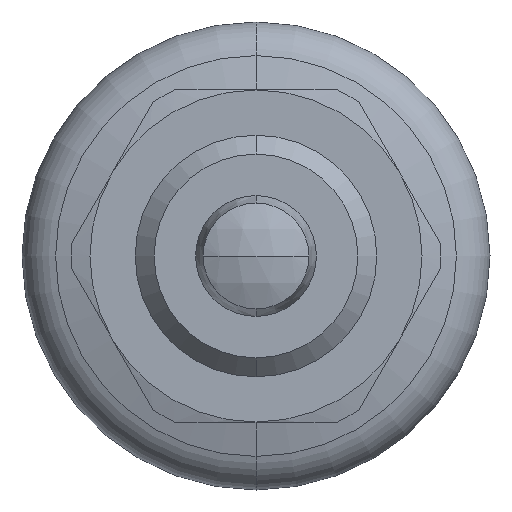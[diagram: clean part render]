
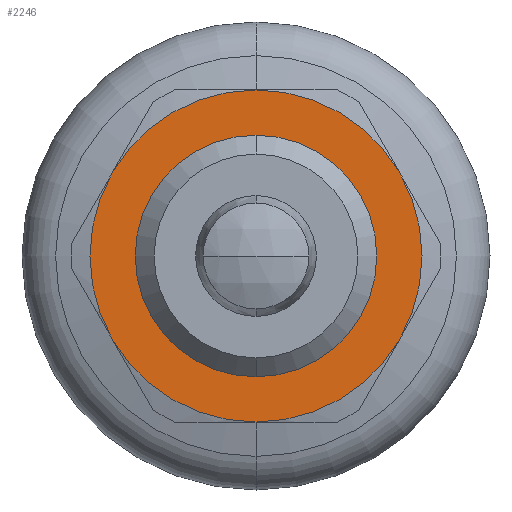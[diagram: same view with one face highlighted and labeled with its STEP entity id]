
A CAD part, front view. The second image highlights one B-rep face of the part: STEP entity #2246.
In plain terms, the highlighted planar face has unit normal (0, -1, 0) as drawn and (0, 0, -1) by its records, which use the part's own axes.
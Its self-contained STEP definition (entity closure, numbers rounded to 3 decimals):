
#2 = EDGE_CURVE ( 'NONE', #137, #3606, #768, .T. ) ;
#21 = ORIENTED_EDGE ( 'NONE', *, *, #2718, .T. ) ;
#45 = CARTESIAN_POINT ( 'NONE',  ( 0., 0., -2.25 ) ) ;
#61 = CARTESIAN_POINT ( 'NONE',  ( 0., 0., -2.25 ) ) ;
#94 = DIRECTION ( 'NONE',  ( -1., 0., 0. ) ) ;
#100 = CIRCLE ( 'NONE', #2190, 7.25 ) ;
#108 = EDGE_CURVE ( 'NONE', #1952, #1832, #1497, .T. ) ;
#123 = ORIENTED_EDGE ( 'NONE', *, *, #3383, .T. ) ;
#137 = VERTEX_POINT ( 'NONE', #2020 ) ;
#243 = AXIS2_PLACEMENT_3D ( 'NONE', #1421, #3122, #1682 ) ;
#264 = AXIS2_PLACEMENT_3D ( 'NONE', #1625, #2770, #2694 ) ;
#364 = VERTEX_POINT ( 'NONE', #3164 ) ;
#387 = CARTESIAN_POINT ( 'NONE',  ( -5.5, 9.526, -2.25 ) ) ;
#393 = DIRECTION ( 'NONE',  ( -1., 0., 0. ) ) ;
#431 = ORIENTED_EDGE ( 'NONE', *, *, #2732, .T. ) ;
#461 = PLANE ( 'NONE',  #1907 ) ;
#613 = CARTESIAN_POINT ( 'NONE',  ( 5.5, 9.526, -2.25 ) ) ;
#728 = FACE_BOUND ( 'NONE', #1463, .T. ) ;
#768 = CIRCLE ( 'NONE', #1610, 11. ) ;
#885 = ORIENTED_EDGE ( 'NONE', *, *, #108, .T. ) ;
#1024 = CARTESIAN_POINT ( 'NONE',  ( 0., -12.702, -2.25 ) ) ;
#1070 = DIRECTION ( 'NONE',  ( 0., 0., -1. ) ) ;
#1122 = EDGE_CURVE ( 'NONE', #2519, #3150, #3656, .T. ) ;
#1149 = ORIENTED_EDGE ( 'NONE', *, *, #2346, .T. ) ;
#1179 = AXIS2_PLACEMENT_3D ( 'NONE', #2544, #1070, #3090 ) ;
#1201 = DIRECTION ( 'NONE',  ( 0., 0., -1. ) ) ;
#1252 = CARTESIAN_POINT ( 'NONE',  ( 11., 0., -2.25 ) ) ;
#1269 = CARTESIAN_POINT ( 'NONE',  ( 0., 0., -2.25 ) ) ;
#1298 = ORIENTED_EDGE ( 'NONE', *, *, #3567, .T. ) ;
#1349 = CARTESIAN_POINT ( 'NONE',  ( 0., 0., -2.25 ) ) ;
#1421 = CARTESIAN_POINT ( 'NONE',  ( 0., 0., -2.25 ) ) ;
#1458 = VERTEX_POINT ( 'NONE', #1252 ) ;
#1463 = EDGE_LOOP ( 'NONE', ( #885, #431 ) ) ;
#1497 = CIRCLE ( 'NONE', #1734, 7.25 ) ;
#1581 = DIRECTION ( 'NONE',  ( 1., 0., 0. ) ) ;
#1610 = AXIS2_PLACEMENT_3D ( 'NONE', #1349, #2515, #2725 ) ;
#1625 = CARTESIAN_POINT ( 'NONE',  ( 0., 0., -2.25 ) ) ;
#1644 = EDGE_LOOP ( 'NONE', ( #1149, #1298, #3044, #21, #123, #1758 ) ) ;
#1652 = FACE_OUTER_BOUND ( 'NONE', #1644, .T. ) ;
#1682 = DIRECTION ( 'NONE',  ( -1., 0., 0. ) ) ;
#1734 = AXIS2_PLACEMENT_3D ( 'NONE', #45, #2312, #3171 ) ;
#1758 = ORIENTED_EDGE ( 'NONE', *, *, #1122, .T. ) ;
#1832 = VERTEX_POINT ( 'NONE', #3137 ) ;
#1896 = CIRCLE ( 'NONE', #264, 11. ) ;
#1907 = AXIS2_PLACEMENT_3D ( 'NONE', #1024, #3283, #1581 ) ;
#1952 = VERTEX_POINT ( 'NONE', #3380 ) ;
#2020 = CARTESIAN_POINT ( 'NONE',  ( 5.5, -9.526, -2.25 ) ) ;
#2049 = AXIS2_PLACEMENT_3D ( 'NONE', #61, #1201, #94 ) ;
#2190 = AXIS2_PLACEMENT_3D ( 'NONE', #1269, #2410, #3446 ) ;
#2246 = ADVANCED_FACE ( 'NONE', ( #1652, #728 ), #461, .F. ) ;
#2312 = DIRECTION ( 'NONE',  ( 0., 0., 1. ) ) ;
#2323 = CIRCLE ( 'NONE', #2803, 11. ) ;
#2346 = EDGE_CURVE ( 'NONE', #3150, #1458, #2805, .T. ) ;
#2410 = DIRECTION ( 'NONE',  ( 0., 0., 1. ) ) ;
#2515 = DIRECTION ( 'NONE',  ( 0., 0., -1. ) ) ;
#2519 = VERTEX_POINT ( 'NONE', #387 ) ;
#2544 = CARTESIAN_POINT ( 'NONE',  ( 0., 0., -2.25 ) ) ;
#2694 = DIRECTION ( 'NONE',  ( -1., 0., 0. ) ) ;
#2718 = EDGE_CURVE ( 'NONE', #3606, #364, #1896, .T. ) ;
#2725 = DIRECTION ( 'NONE',  ( -1., 0., 0. ) ) ;
#2732 = EDGE_CURVE ( 'NONE', #1832, #1952, #100, .T. ) ;
#2770 = DIRECTION ( 'NONE',  ( 0., 0., -1. ) ) ;
#2803 = AXIS2_PLACEMENT_3D ( 'NONE', #2967, #3313, #393 ) ;
#2805 = CIRCLE ( 'NONE', #1179, 11. ) ;
#2870 = CARTESIAN_POINT ( 'NONE',  ( -5.5, -9.526, -2.25 ) ) ;
#2967 = CARTESIAN_POINT ( 'NONE',  ( 0., 0., -2.25 ) ) ;
#3044 = ORIENTED_EDGE ( 'NONE', *, *, #2, .T. ) ;
#3090 = DIRECTION ( 'NONE',  ( -1., 0., 0. ) ) ;
#3122 = DIRECTION ( 'NONE',  ( 0., 0., -1. ) ) ;
#3137 = CARTESIAN_POINT ( 'NONE',  ( 7.25, 0., -2.25 ) ) ;
#3150 = VERTEX_POINT ( 'NONE', #613 ) ;
#3164 = CARTESIAN_POINT ( 'NONE',  ( -11., 0., -2.25 ) ) ;
#3171 = DIRECTION ( 'NONE',  ( 1., 0., 0. ) ) ;
#3283 = DIRECTION ( 'NONE',  ( 0., 0., 1. ) ) ;
#3313 = DIRECTION ( 'NONE',  ( 0., 0., -1. ) ) ;
#3380 = CARTESIAN_POINT ( 'NONE',  ( -7.25, 0., -2.25 ) ) ;
#3383 = EDGE_CURVE ( 'NONE', #364, #2519, #2323, .T. ) ;
#3446 = DIRECTION ( 'NONE',  ( 1., 0., 0. ) ) ;
#3492 = CIRCLE ( 'NONE', #243, 11. ) ;
#3567 = EDGE_CURVE ( 'NONE', #1458, #137, #3492, .T. ) ;
#3606 = VERTEX_POINT ( 'NONE', #2870 ) ;
#3656 = CIRCLE ( 'NONE', #2049, 11. ) ;
